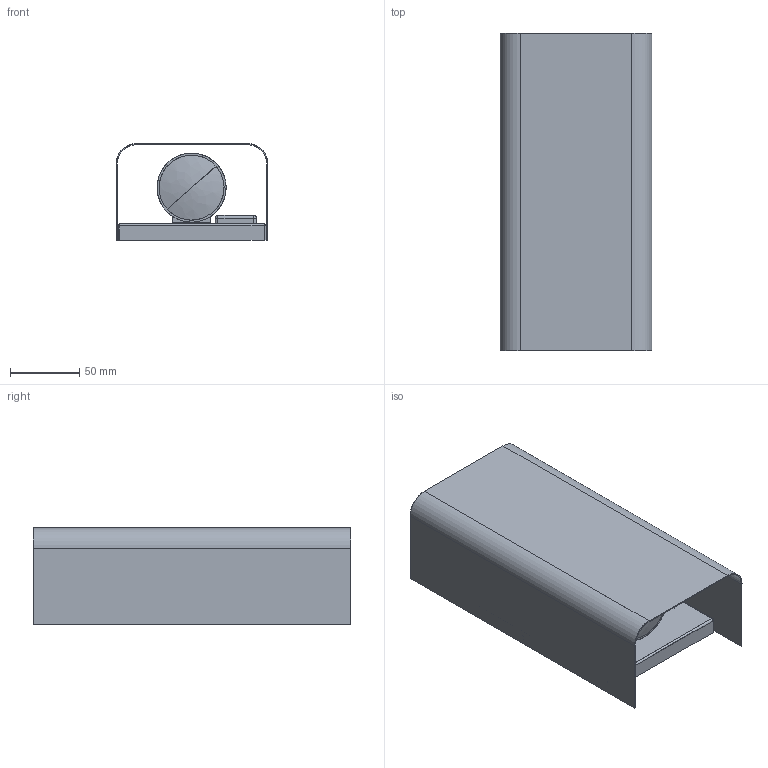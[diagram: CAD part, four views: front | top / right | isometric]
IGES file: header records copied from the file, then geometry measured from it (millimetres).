
Start section: SolidWorks IGES file using analytic representation for surfaces
Global section: file name: E:\....SOLID WORKS\...BORYS\CUBE blachy NOWE\MODELE IGS zlozenia\BERGEN.IGS; native system: SolidWorks 2016; preprocessor: SolidWorks 2016; author: DELL; date: 170419.153056; units: millimetre
Bounding box: 110 x 230 x 70 mm (x, y, z)
Surface area: 191308 mm2 (no closed solid volume)
Topology: 0 solids, 0 shells, 514 faces, 7968 edges, 7950 vertices
Faces by surface type: bspline 267, revolution 247
